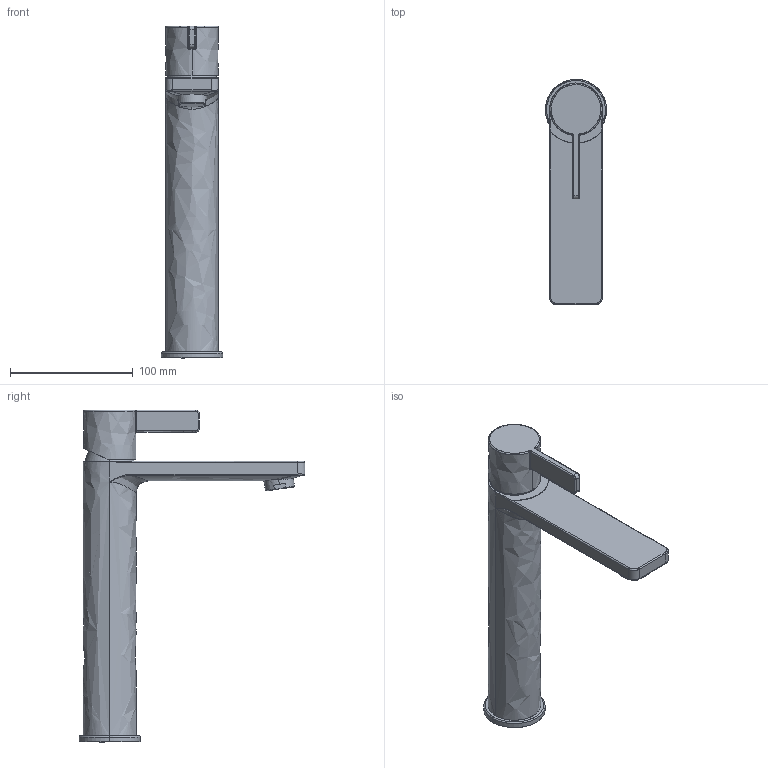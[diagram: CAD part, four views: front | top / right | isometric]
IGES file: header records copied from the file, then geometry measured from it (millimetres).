
Global section: file name: d:\users\matthias.isele\Desktop\planungsdaten_erstellen\Armaturen\D-Neo\DE1030002010\DE1030002010.igs; native system: Rhinoceros ( Sep 13 2016 ); preprocessor: Trout Lake IGES 012 Sep 13 2016; date: 210622.073300; units: millimetre
Bounding box: 49.8 x 183.9 x 270.3 mm (x, y, z)
Surface area: 60804.6 mm2 (no closed solid volume)
Topology: 0 solids, 0 shells, 88 faces, 572 edges, 572 vertices
Faces by surface type: bspline 88
